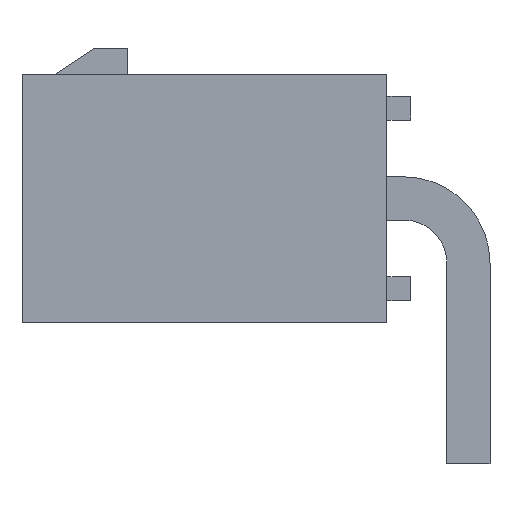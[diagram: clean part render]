
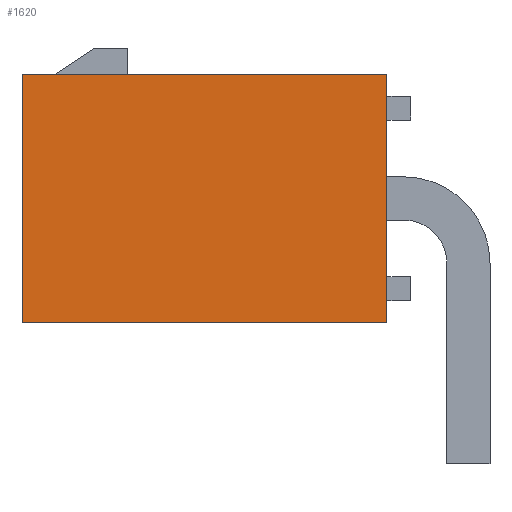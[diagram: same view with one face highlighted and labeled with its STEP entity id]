
A CAD part, left-side view. The second image highlights one B-rep face of the part: STEP entity #1620.
In plain terms, the highlighted planar face has unit normal (-1, 0, 0).
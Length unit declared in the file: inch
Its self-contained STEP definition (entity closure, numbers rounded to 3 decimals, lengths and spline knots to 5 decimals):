
#112=ORIENTED_EDGE('',*,*,#543,.T.);
#113=ORIENTED_EDGE('',*,*,#560,.F.);
#114=ORIENTED_EDGE('',*,*,#561,.F.);
#115=ORIENTED_EDGE('',*,*,#557,.T.);
#543=EDGE_CURVE('',#769,#768,#928,.T.);
#557=EDGE_CURVE('',#779,#769,#942,.T.);
#560=EDGE_CURVE('',#781,#768,#945,.T.);
#561=EDGE_CURVE('',#779,#781,#946,.T.);
#768=VERTEX_POINT('',#2327);
#769=VERTEX_POINT('',#2329);
#779=VERTEX_POINT('',#2355);
#781=VERTEX_POINT('',#2361);
#928=LINE('',#2328,#1151);
#942=LINE('',#2354,#1165);
#945=LINE('',#2360,#1168);
#946=LINE('',#2362,#1169);
#1151=VECTOR('',#1885,39.37008);
#1165=VECTOR('',#1903,39.37008);
#1168=VECTOR('',#1908,39.37008);
#1169=VECTOR('',#1909,39.37008);
#1350=EDGE_LOOP('',(#112,#113,#114,#115));
#1443=FACE_BOUND('',#1350,.T.);
#1536=PLANE('',#1746);
#1620=ADVANCED_FACE('',(#1443),#1536,.F.);
#1746=AXIS2_PLACEMENT_3D('',#2359,#1906,#1907);
#1885=DIRECTION('',(0.,0.,1.));
#1903=DIRECTION('',(0.,-1.,0.));
#1906=DIRECTION('',(1.,0.,0.));
#1907=DIRECTION('',(0.,0.,-1.));
#1908=DIRECTION('',(0.,-1.,0.));
#1909=DIRECTION('',(0.,0.,1.));
#2327=CARTESIAN_POINT('',(-0.19125,0.025,0.1295));
#2328=CARTESIAN_POINT('',(-0.19125,0.025,-0.1295));
#2329=CARTESIAN_POINT('',(-0.19125,0.025,-0.1295));
#2354=CARTESIAN_POINT('',(-0.19125,0.405,-0.1295));
#2355=CARTESIAN_POINT('',(-0.19125,0.405,-0.1295));
#2359=CARTESIAN_POINT('',(-0.19125,0.405,-0.1295));
#2360=CARTESIAN_POINT('',(-0.19125,0.405,0.1295));
#2361=CARTESIAN_POINT('',(-0.19125,0.405,0.1295));
#2362=CARTESIAN_POINT('',(-0.19125,0.405,-0.1295));
